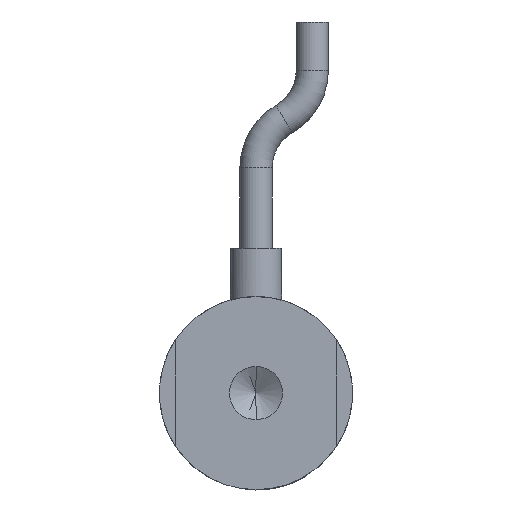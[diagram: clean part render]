
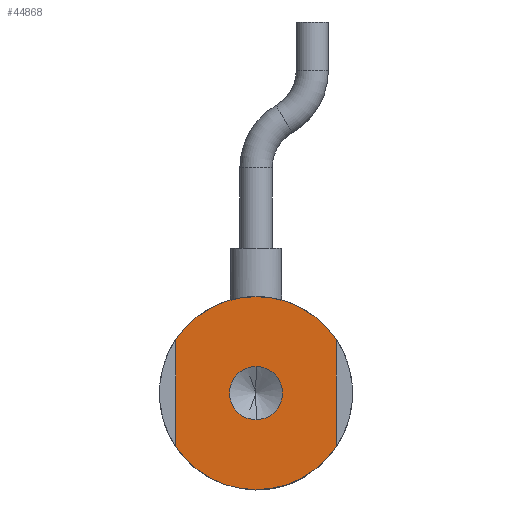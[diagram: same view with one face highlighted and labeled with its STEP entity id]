
A CAD part, front view. The second image highlights one B-rep face of the part: STEP entity #44868.
In plain terms, the highlighted planar face has unit normal (0, -1, 0).
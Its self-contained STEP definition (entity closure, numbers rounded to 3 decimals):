
#194 = PLANE ( 'NONE',  #31330 ) ;
#1542 = DIRECTION ( 'NONE',  ( 0., 0., -1. ) ) ;
#1882 = VERTEX_POINT ( 'NONE', #20904 ) ;
#1971 = VECTOR ( 'NONE', #18362, 1000. ) ;
#2682 = AXIS2_PLACEMENT_3D ( 'NONE', #34609, #34560, #34507 ) ;
#4324 = CIRCLE ( 'NONE', #44834, 1.65 ) ;
#4353 = EDGE_CURVE ( 'NONE', #17576, #23497, #36615, .T. ) ;
#6050 = DIRECTION ( 'NONE',  ( 0., 1., 0. ) ) ;
#6262 = EDGE_CURVE ( 'NONE', #31786, #10960, #16959, .T. ) ;
#6468 = VERTEX_POINT ( 'NONE', #29034 ) ;
#7166 = DIRECTION ( 'NONE',  ( 0., 0., -1. ) ) ;
#9495 = AXIS2_PLACEMENT_3D ( 'NONE', #27471, #6050, #30918 ) ;
#9823 = DIRECTION ( 'NONE',  ( 0., 0., 1. ) ) ;
#9865 = DIRECTION ( 'NONE',  ( 0., 1., 0. ) ) ;
#9924 = CARTESIAN_POINT ( 'NONE',  ( 0., 0., 0. ) ) ;
#10391 = DIRECTION ( 'NONE',  ( 0., -1., 0. ) ) ;
#10552 = FACE_OUTER_BOUND ( 'NONE', #19521, .T. ) ;
#10960 = VERTEX_POINT ( 'NONE', #13253 ) ;
#11236 = CARTESIAN_POINT ( 'NONE',  ( 0., 0., 0. ) ) ;
#11698 = CARTESIAN_POINT ( 'NONE',  ( 0., 0., -6. ) ) ;
#13253 = CARTESIAN_POINT ( 'NONE',  ( 0., 0., 6. ) ) ;
#14826 = CARTESIAN_POINT ( 'NONE',  ( -5., 0., 0. ) ) ;
#14853 = EDGE_CURVE ( 'NONE', #10960, #32470, #44222, .T. ) ;
#14887 = DIRECTION ( 'NONE',  ( 0., 1., 0. ) ) ;
#15703 = EDGE_CURVE ( 'NONE', #6468, #17576, #25327, .T. ) ;
#16936 = EDGE_LOOP ( 'NONE', ( #28382, #28471 ) ) ;
#16959 = CIRCLE ( 'NONE', #2682, 6. ) ;
#17576 = VERTEX_POINT ( 'NONE', #11698 ) ;
#17804 = EDGE_CURVE ( 'NONE', #32470, #6468, #38774, .T. ) ;
#17862 = LINE ( 'NONE', #14826, #1971 ) ;
#18362 = DIRECTION ( 'NONE',  ( 0., 0., 1. ) ) ;
#19111 = VERTEX_POINT ( 'NONE', #20453 ) ;
#19184 = VECTOR ( 'NONE', #7166, 1000. ) ;
#19521 = EDGE_LOOP ( 'NONE', ( #29413, #29540, #30112, #30499, #31167, #31743 ) ) ;
#20069 = FACE_BOUND ( 'NONE', #16936, .T. ) ;
#20203 = CARTESIAN_POINT ( 'NONE',  ( 0., 0., 0. ) ) ;
#20453 = CARTESIAN_POINT ( 'NONE',  ( 0., 0., 1.65 ) ) ;
#20904 = CARTESIAN_POINT ( 'NONE',  ( 0., 0., -1.65 ) ) ;
#22205 = CARTESIAN_POINT ( 'NONE',  ( -5., 0., -3.317 ) ) ;
#23114 = DIRECTION ( 'NONE',  ( 0., -1., 0. ) ) ;
#23464 = EDGE_CURVE ( 'NONE', #23497, #31786, #17862, .T. ) ;
#23497 = VERTEX_POINT ( 'NONE', #22205 ) ;
#23752 = DIRECTION ( 'NONE',  ( 0., 0., 1. ) ) ;
#25210 = CARTESIAN_POINT ( 'NONE',  ( 5., 0., 3.317 ) ) ;
#25327 = CIRCLE ( 'NONE', #9495, 6. ) ;
#26892 = AXIS2_PLACEMENT_3D ( 'NONE', #43801, #23114, #1542 ) ;
#26960 = AXIS2_PLACEMENT_3D ( 'NONE', #9924, #9865, #9823 ) ;
#27382 = CARTESIAN_POINT ( 'NONE',  ( -5., 0., 3.317 ) ) ;
#27471 = CARTESIAN_POINT ( 'NONE',  ( 0., 0., 0. ) ) ;
#28382 = ORIENTED_EDGE ( 'NONE', *, *, #41142, .F. ) ;
#28471 = ORIENTED_EDGE ( 'NONE', *, *, #31626, .F. ) ;
#29034 = CARTESIAN_POINT ( 'NONE',  ( 5., 0., -3.317 ) ) ;
#29413 = ORIENTED_EDGE ( 'NONE', *, *, #23464, .F. ) ;
#29540 = ORIENTED_EDGE ( 'NONE', *, *, #4353, .F. ) ;
#30112 = ORIENTED_EDGE ( 'NONE', *, *, #15703, .F. ) ;
#30499 = ORIENTED_EDGE ( 'NONE', *, *, #17804, .F. ) ;
#30918 = DIRECTION ( 'NONE',  ( 0., 0., 1. ) ) ;
#31167 = ORIENTED_EDGE ( 'NONE', *, *, #14853, .F. ) ;
#31330 = AXIS2_PLACEMENT_3D ( 'NONE', #11236, #14887, #39245 ) ;
#31545 = CARTESIAN_POINT ( 'NONE',  ( 0., 0., 0. ) ) ;
#31626 = EDGE_CURVE ( 'NONE', #19111, #1882, #44585, .T. ) ;
#31743 = ORIENTED_EDGE ( 'NONE', *, *, #6262, .F. ) ;
#31786 = VERTEX_POINT ( 'NONE', #27382 ) ;
#31991 = CARTESIAN_POINT ( 'NONE',  ( 5., 0., 0. ) ) ;
#32470 = VERTEX_POINT ( 'NONE', #25210 ) ;
#34507 = DIRECTION ( 'NONE',  ( 0., 0., 1. ) ) ;
#34560 = DIRECTION ( 'NONE',  ( 0., 1., 0. ) ) ;
#34609 = CARTESIAN_POINT ( 'NONE',  ( 0., 0., 0. ) ) ;
#35013 = DIRECTION ( 'NONE',  ( 0., 0., -1. ) ) ;
#36615 = CIRCLE ( 'NONE', #26960, 6. ) ;
#38774 = LINE ( 'NONE', #31991, #19184 ) ;
#39245 = DIRECTION ( 'NONE',  ( 0., 0., 1. ) ) ;
#41142 = EDGE_CURVE ( 'NONE', #1882, #19111, #4324, .T. ) ;
#41829 = AXIS2_PLACEMENT_3D ( 'NONE', #20203, #44430, #23752 ) ;
#43801 = CARTESIAN_POINT ( 'NONE',  ( 0., 0., 0. ) ) ;
#44222 = CIRCLE ( 'NONE', #41829, 6. ) ;
#44430 = DIRECTION ( 'NONE',  ( 0., 1., 0. ) ) ;
#44585 = CIRCLE ( 'NONE', #26892, 1.65 ) ;
#44834 = AXIS2_PLACEMENT_3D ( 'NONE', #31545, #10391, #35013 ) ;
#44868 = ADVANCED_FACE ( 'NONE', ( #20069, #10552 ), #194, .F. ) ;
